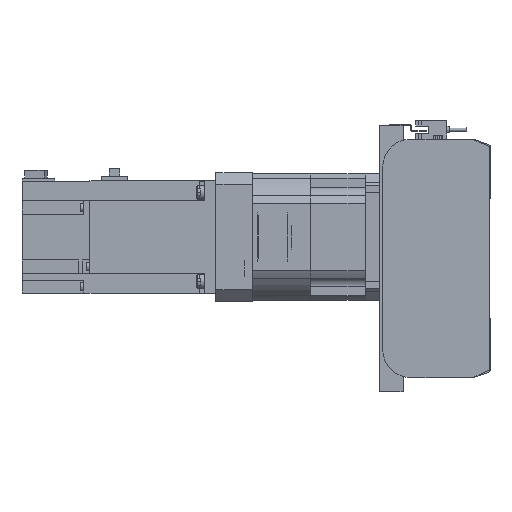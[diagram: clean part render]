
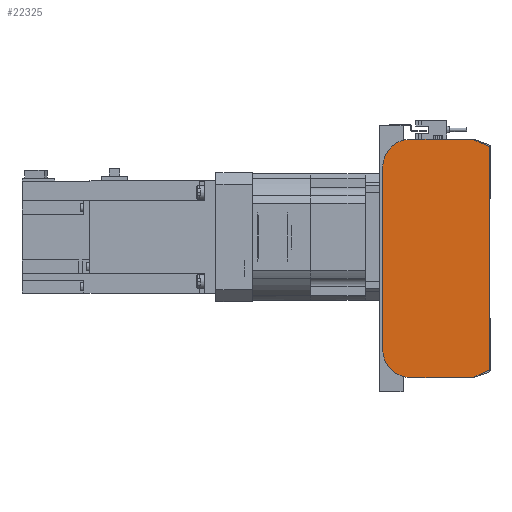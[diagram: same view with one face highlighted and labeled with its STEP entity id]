
A CAD part, left-side view. The second image highlights one B-rep face of the part: STEP entity #22325.
In plain terms, the highlighted planar face has unit normal (-1, 0, 0).
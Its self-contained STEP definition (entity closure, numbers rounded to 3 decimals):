
#1665=CIRCLE('',#24445,2.);
#1666=CIRCLE('',#24448,2.);
#1667=CIRCLE('',#24451,20.);
#1668=CIRCLE('',#24454,20.);
#6462=ORIENTED_EDGE('',*,*,#10567,.F.);
#6463=ORIENTED_EDGE('',*,*,#10645,.F.);
#6464=ORIENTED_EDGE('',*,*,#10643,.F.);
#6465=ORIENTED_EDGE('',*,*,#10641,.F.);
#6466=ORIENTED_EDGE('',*,*,#10364,.F.);
#6467=ORIENTED_EDGE('',*,*,#10640,.F.);
#6468=ORIENTED_EDGE('',*,*,#10638,.F.);
#6469=ORIENTED_EDGE('',*,*,#10636,.F.);
#6470=ORIENTED_EDGE('',*,*,#10634,.F.);
#6471=ORIENTED_EDGE('',*,*,#10632,.F.);
#10364=EDGE_CURVE('',#12794,#12795,#14700,.T.);
#10567=EDGE_CURVE('',#12866,#12867,#14814,.T.);
#10632=EDGE_CURVE('',#12867,#12908,#14859,.T.);
#10634=EDGE_CURVE('',#12908,#12909,#1665,.T.);
#10636=EDGE_CURVE('',#12909,#12910,#14862,.T.);
#10638=EDGE_CURVE('',#12910,#12911,#1666,.T.);
#10640=EDGE_CURVE('',#12911,#12794,#14865,.T.);
#10641=EDGE_CURVE('',#12795,#12912,#1667,.T.);
#10643=EDGE_CURVE('',#12912,#12913,#14867,.T.);
#10645=EDGE_CURVE('',#12913,#12866,#1668,.T.);
#12794=VERTEX_POINT('',#37450);
#12795=VERTEX_POINT('',#37452);
#12866=VERTEX_POINT('',#37778);
#12867=VERTEX_POINT('',#37780);
#12908=VERTEX_POINT('',#37910);
#12909=VERTEX_POINT('',#37914);
#12910=VERTEX_POINT('',#37918);
#12911=VERTEX_POINT('',#37922);
#12912=VERTEX_POINT('',#37928);
#12913=VERTEX_POINT('',#37932);
#14700=LINE('',#37451,#16601);
#14814=LINE('',#37779,#16715);
#14859=LINE('',#37909,#16760);
#14862=LINE('',#37917,#16763);
#14865=LINE('',#37925,#16766);
#14867=LINE('',#37931,#16768);
#16601=VECTOR('',#29647,1000.);
#16715=VECTOR('',#30045,1000.);
#16760=VECTOR('',#30178,1000.);
#16763=VECTOR('',#30187,1000.);
#16766=VECTOR('',#30196,1000.);
#16768=VECTOR('',#30204,1000.);
#18336=EDGE_LOOP('',(#6462,#6463,#6464,#6465,#6466,#6467,#6468,#6469,#6470,
#6471));
#20161=FACE_BOUND('',#18336,.T.);
#21190=PLANE('',#24456);
#22325=ADVANCED_FACE('',(#20161),#21190,.F.);
#24445=AXIS2_PLACEMENT_3D('',#37913,#30182,#30183);
#24448=AXIS2_PLACEMENT_3D('',#37921,#30191,#30192);
#24451=AXIS2_PLACEMENT_3D('',#37927,#30199,#30200);
#24454=AXIS2_PLACEMENT_3D('',#37935,#30208,#30209);
#24456=AXIS2_PLACEMENT_3D('',#37937,#30212,#30213);
#29647=DIRECTION('',(0.,1.,0.));
#30045=DIRECTION('',(0.,-1.,0.));
#30178=DIRECTION('',(0.,-0.913,-0.408));
#30182=DIRECTION('',(1.,0.,0.));
#30183=DIRECTION('',(0.,0.,-1.));
#30187=DIRECTION('',(0.,0.,-1.));
#30191=DIRECTION('',(1.,0.,0.));
#30192=DIRECTION('',(0.,0.,-1.));
#30196=DIRECTION('',(0.,0.913,-0.408));
#30199=DIRECTION('',(1.,0.,0.));
#30200=DIRECTION('',(0.,0.,-1.));
#30204=DIRECTION('',(0.,0.,1.));
#30208=DIRECTION('',(1.,0.,0.));
#30209=DIRECTION('',(0.,0.,-1.));
#30212=DIRECTION('',(1.,0.,0.));
#30213=DIRECTION('',(0.,0.,-1.));
#37450=CARTESIAN_POINT('',(0.,12.33,-85.));
#37451=CARTESIAN_POINT('',(0.,12.33,-85.));
#37452=CARTESIAN_POINT('',(0.,56.5,-85.));
#37778=CARTESIAN_POINT('',(0.,56.5,85.));
#37779=CARTESIAN_POINT('',(0.,56.5,85.));
#37780=CARTESIAN_POINT('',(0.,12.33,85.));
#37909=CARTESIAN_POINT('',(0.,12.33,85.));
#37910=CARTESIAN_POINT('',(0.,1.684,80.239));
#37913=CARTESIAN_POINT('',(0.,2.5,78.413));
#37914=CARTESIAN_POINT('',(0.,0.5,78.413));
#37917=CARTESIAN_POINT('',(0.,0.5,78.413));
#37918=CARTESIAN_POINT('',(0.,0.5,-78.413));
#37921=CARTESIAN_POINT('',(0.,2.5,-78.413));
#37922=CARTESIAN_POINT('',(0.,1.684,-80.239));
#37925=CARTESIAN_POINT('',(0.,1.684,-80.239));
#37927=CARTESIAN_POINT('',(0.,56.5,-65.));
#37928=CARTESIAN_POINT('',(0.,76.5,-65.));
#37931=CARTESIAN_POINT('',(0.,76.5,-65.));
#37932=CARTESIAN_POINT('',(0.,76.5,65.));
#37935=CARTESIAN_POINT('',(0.,56.5,65.));
#37937=CARTESIAN_POINT('',(0.,2.5,78.413));
